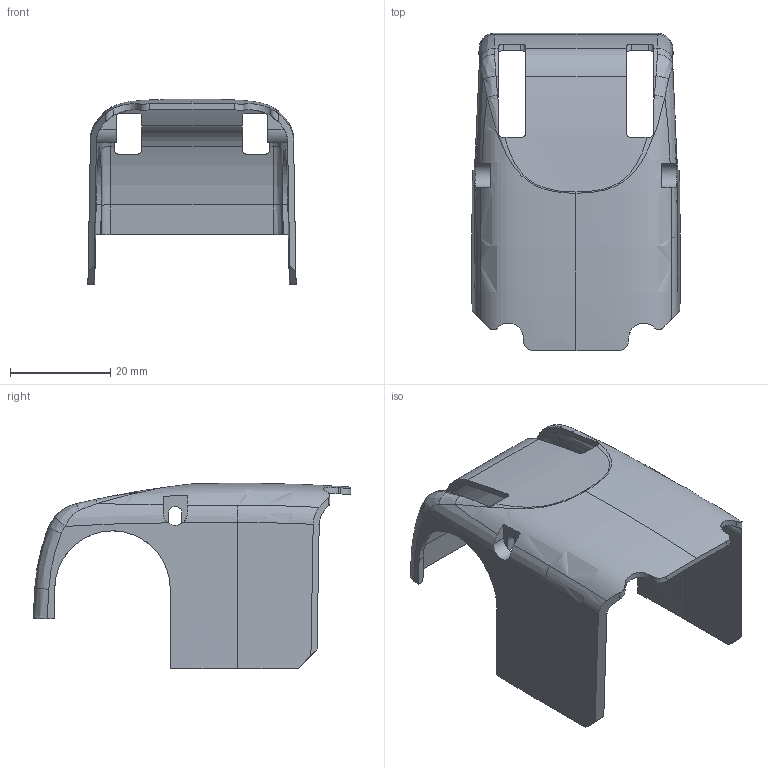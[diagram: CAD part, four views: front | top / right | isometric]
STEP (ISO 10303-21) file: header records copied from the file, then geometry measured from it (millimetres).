
FILE_DESCRIPTION((''),'2;1');
FILE_NAME('DARWIN-OP2_CVR_ARM_U_PRT','2016-08-12T',('kimdolyang'),(''),'PRO/ENGINEER BY PARAMETRIC TECHNOLOGY CORPORATION, 2013410','PRO/ENGINEER BY PARAMETRIC TECHNOLOGY CORPORATION, 2013410','');
FILE_SCHEMA(('AUTOMOTIVE_DESIGN { 1 0 10303 214 1 1 1 1 }'));
Length unit declared in the file: millimetre
Products named in the file (1): DARWIN-OP2_CVR_ARM_U_PRT
Bounding box: 41.5 x 63.3 x 37 mm (x, y, z)
Volume: 6066.2 mm3; surface area: 10653 mm2
Topology: 1 solids, 1 shells, 132 faces, 396 edges, 258 vertices
Faces by surface type: plane 46, cylinder 40, bspline 34, cone 4, revolution 4, torus 4
Entity records: 8291 total; most frequent: CARTESIAN_POINT 3804, ORIENTED_EDGE 792, DIRECTION 476, PRESENTATION_STYLE_ASSIGNMENT 397, STYLED_ITEM 397, CURVE_STYLE 396, EDGE_CURVE 396, VERTEX_POINT 258
